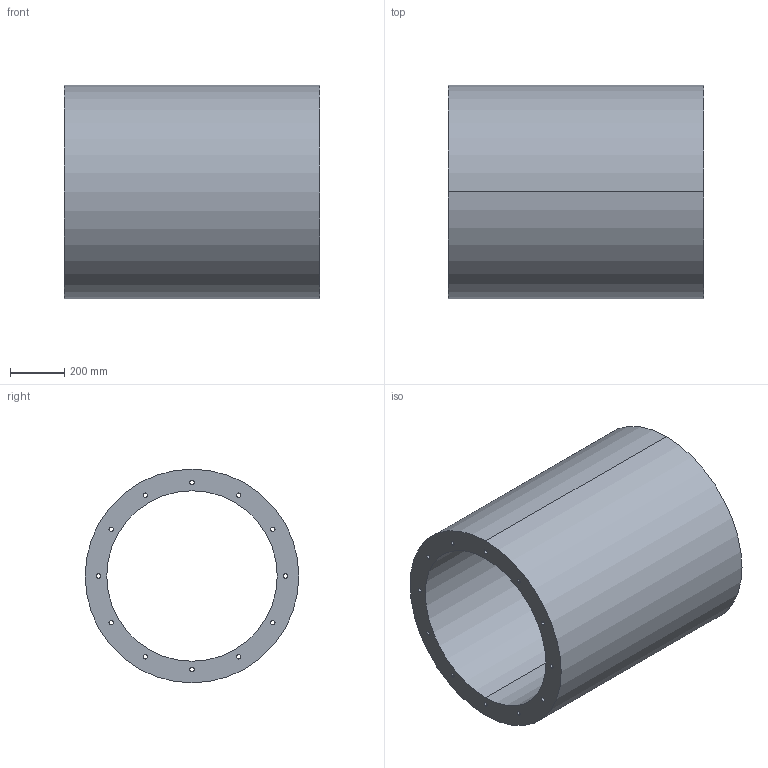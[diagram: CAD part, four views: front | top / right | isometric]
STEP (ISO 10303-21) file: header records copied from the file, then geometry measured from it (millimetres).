
FILE_DESCRIPTION(('STEP AP214'),'1');
FILE_NAME('accessory_5211811300.stp','2017-10-09T11:37:35',('TraceParts'),('TraceParts S.A.'),'Spatial InterOp 3D',' ',' ');
FILE_SCHEMA(('automotive_design'));
Length unit declared in the file: millimetre
Products named in the file (1): accessory_5211811300
Bounding box: 945 x 790 x 790 mm (x, y, z)
Volume: 166348085 mm3; surface area: 5137773.2 mm2
Topology: 1 solids, 1 shells, 30 faces, 84 edges, 56 vertices
Faces by surface type: cylinder 28, plane 2
Entity records: 1312 total; most frequent: DIRECTION 202, CARTESIAN_POINT 171, ORIENTED_EDGE 168, AXIS2_PLACEMENT_3D 87, EDGE_CURVE 84, EDGE_LOOP 56, VERTEX_POINT 56, CIRCLE 56
